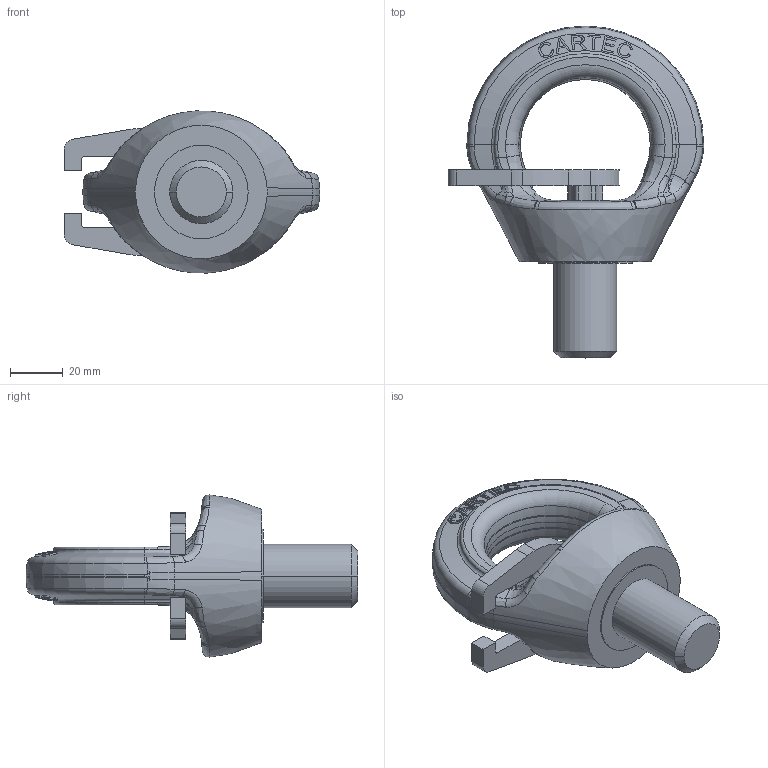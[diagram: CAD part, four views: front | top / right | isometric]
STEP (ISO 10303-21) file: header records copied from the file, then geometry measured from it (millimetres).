
FILE_DESCRIPTION(('STEP AP214'),'1');
FILE_NAME('c807ht24.stp','2017-03-27T13:32:25',('TraceParts'),('TraceParts S.A.'),'Spatial InterOp 3D',' ',' ');
FILE_SCHEMA(('automotive_design'));
Length unit declared in the file: millimetre
Products named in the file (3): c807ht24_1; c807ht24_2; c807ht24_3
Bounding box: 96.93 x 125.93 x 61.48 mm (x, y, z)
Volume: 141647.6 mm3; surface area: 35159.3 mm2
Topology: 3 solids, 3 shells, 452 faces, 1188 edges, 758 vertices
Faces by surface type: cylinder 137, plane 135, bspline 108, torus 52, cone 20
Entity records: 33663 total; most frequent: CARTESIAN_POINT 19478, ORIENTED_EDGE 2368, DIRECTION 2016, EDGE_CURVE 1184, AXIS2_PLACEMENT_3D 804, VERTEX_POINT 758, EDGE_LOOP 476, STYLED_ITEM 455
